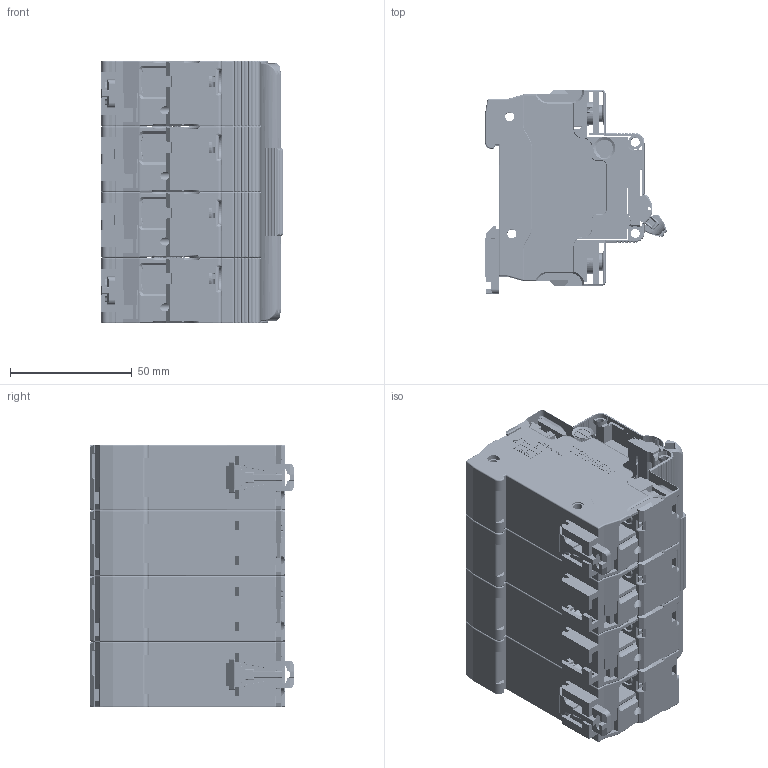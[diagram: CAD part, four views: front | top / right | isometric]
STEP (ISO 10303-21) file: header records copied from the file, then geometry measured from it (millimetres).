
FILE_DESCRIPTION (( 'STEP AP214' ), '1' );
FILE_NAME ('TGB1N-125 4P.STEP', '2025-12-15T13:56:29', ( '' ), ( '' ), 'SwSTEP 2.0', 'SolidWorks 2024', '' );
FILE_SCHEMA (( 'AUTOMOTIVE_DESIGN' ));
Length unit declared in the file: millimetre
Products named in the file (10): TGB1N-1254P_SW0001_3.stp; TGB1N-1254P_SW0001_1.stp; TGB1N-1254P_SW0001_7.stp; TGB1N-125 4P; TGB1N-125 4P.stp; TGB1N-1254P_SW0001_8.stp; TGB1N-1254P_SW0001_5.stp; TGB1N-1254P_SW0001_2.stp; TGB1N-1254P_SW0001_4.stp; TGB1N-1254P_SW0001_6.stp
Assembly tree (9 placements, depth 3):
  TGB1N-125 4P
    TGB1N-125 4P.stp
      TGB1N-1254P_SW0001_1.stp
      TGB1N-1254P_SW0001_2.stp
      TGB1N-1254P_SW0001_3.stp
      TGB1N-1254P_SW0001_4.stp
      TGB1N-1254P_SW0001_5.stp
      TGB1N-1254P_SW0001_6.stp
      TGB1N-1254P_SW0001_7.stp
      TGB1N-1254P_SW0001_8.stp
Bounding box: 74.66 x 83.73 x 108 mm (x, y, z)
Volume: 4596.9 mm3; surface area: 165960.8 mm2
Topology: 7 solids, 8 shells, 12104 faces, 33989 edges, 21869 vertices
Faces by surface type: plane 8704, cylinder 2020, bspline 644, torus 366, cone 334, sphere 36
Entity records: 415214 total; most frequent: CARTESIAN_POINT 111553, ORIENTED_EDGE 67614, DIRECTION 56528, EDGE_CURVE 33807, VECTOR 24612, LINE 24612, VERTEX_POINT 21821, AXIS2_PLACEMENT_3D 15958
